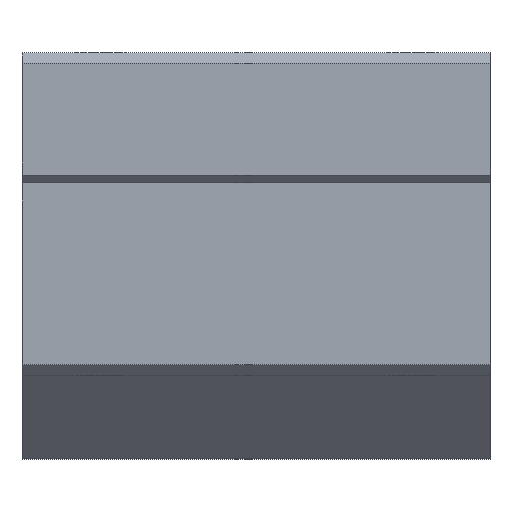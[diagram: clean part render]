
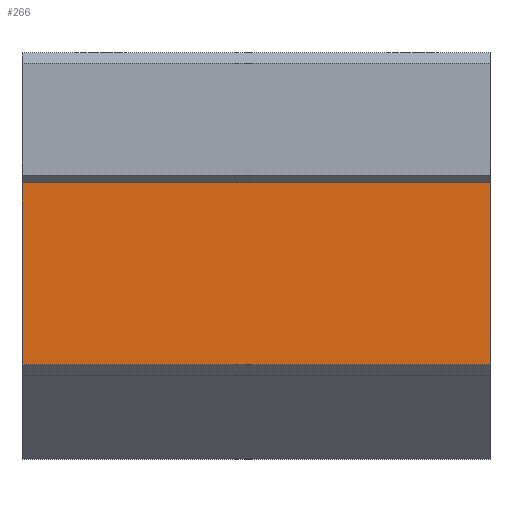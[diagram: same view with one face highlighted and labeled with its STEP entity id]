
A CAD part, top view. The second image highlights one B-rep face of the part: STEP entity #266.
In plain terms, the highlighted planar face has unit normal (0, 0, 1).
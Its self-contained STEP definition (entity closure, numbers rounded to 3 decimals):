
#65 = DIRECTION ( 'NONE',  ( 1., 0., 0. ) ) ;
#89 = CARTESIAN_POINT ( 'NONE',  ( 90., 53., 49.5 ) ) ;
#119 = ORIENTED_EDGE ( 'NONE', *, *, #715, .F. ) ;
#126 = CARTESIAN_POINT ( 'NONE',  ( 90., 53., 49.5 ) ) ;
#140 = DIRECTION ( 'NONE',  ( 0., -1., 0. ) ) ;
#177 = CARTESIAN_POINT ( 'NONE',  ( 0., 18., 49.5 ) ) ;
#217 = CARTESIAN_POINT ( 'NONE',  ( 90., 18., 49.5 ) ) ;
#256 = PLANE ( 'NONE',  #1533 ) ;
#257 = ORIENTED_EDGE ( 'NONE', *, *, #1667, .F. ) ;
#266 = ADVANCED_FACE ( 'NONE', ( #1457 ), #256, .F. ) ;
#313 = VECTOR ( 'NONE', #140, 1000. ) ;
#345 = DIRECTION ( 'NONE',  ( -1., 0., 0. ) ) ;
#487 = VERTEX_POINT ( 'NONE', #177 ) ;
#535 = LINE ( 'NONE', #1348, #313 ) ;
#563 = ORIENTED_EDGE ( 'NONE', *, *, #1390, .T. ) ;
#616 = CARTESIAN_POINT ( 'NONE',  ( 90., 53., 49.5 ) ) ;
#623 = VERTEX_POINT ( 'NONE', #217 ) ;
#650 = VERTEX_POINT ( 'NONE', #616 ) ;
#715 = EDGE_CURVE ( 'NONE', #650, #623, #535, .T. ) ;
#758 = CARTESIAN_POINT ( 'NONE',  ( 0., 53., 49.5 ) ) ;
#861 = DIRECTION ( 'NONE',  ( -1., 0., 0. ) ) ;
#881 = DIRECTION ( 'NONE',  ( 0., -1., 0. ) ) ;
#977 = VECTOR ( 'NONE', #881, 1000. ) ;
#1015 = EDGE_CURVE ( 'NONE', #1522, #487, #1407, .T. ) ;
#1022 = VECTOR ( 'NONE', #861, 1000. ) ;
#1151 = ORIENTED_EDGE ( 'NONE', *, *, #1015, .T. ) ;
#1171 = LINE ( 'NONE', #89, #1556 ) ;
#1262 = LINE ( 'NONE', #1500, #1022 ) ;
#1280 = EDGE_LOOP ( 'NONE', ( #1151, #257, #119, #563 ) ) ;
#1348 = CARTESIAN_POINT ( 'NONE',  ( 90., 53., 49.5 ) ) ;
#1390 = EDGE_CURVE ( 'NONE', #650, #1522, #1171, .T. ) ;
#1407 = LINE ( 'NONE', #758, #977 ) ;
#1457 = FACE_OUTER_BOUND ( 'NONE', #1280, .T. ) ;
#1500 = CARTESIAN_POINT ( 'NONE',  ( 90., 18., 49.5 ) ) ;
#1522 = VERTEX_POINT ( 'NONE', #1590 ) ;
#1533 = AXIS2_PLACEMENT_3D ( 'NONE', #126, #1593, #65 ) ;
#1556 = VECTOR ( 'NONE', #345, 1000. ) ;
#1590 = CARTESIAN_POINT ( 'NONE',  ( 0., 53., 49.5 ) ) ;
#1593 = DIRECTION ( 'NONE',  ( 0., 0., -1. ) ) ;
#1667 = EDGE_CURVE ( 'NONE', #623, #487, #1262, .T. ) ;
